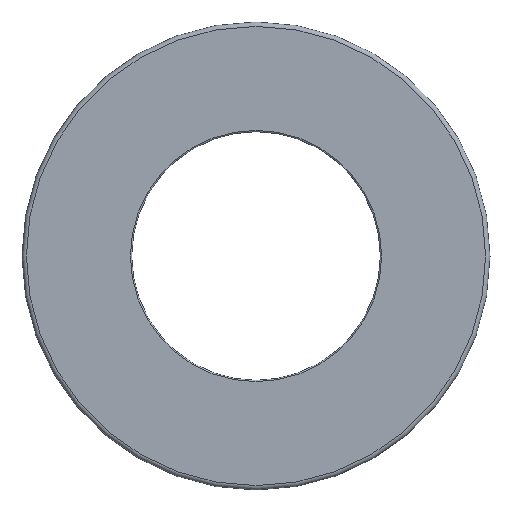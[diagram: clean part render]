
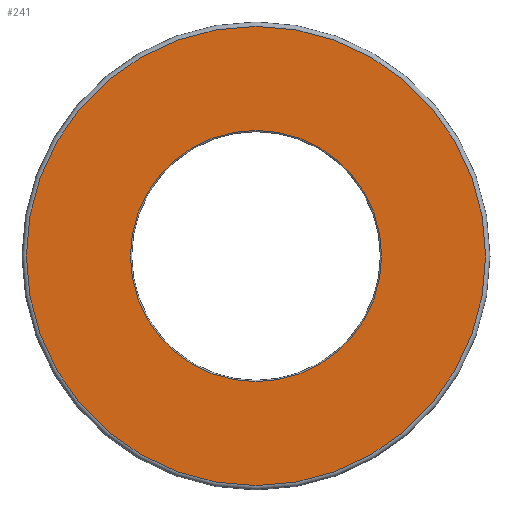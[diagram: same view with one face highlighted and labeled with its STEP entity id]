
A CAD part, left-side view. The second image highlights one B-rep face of the part: STEP entity #241.
In plain terms, the highlighted planar face has unit normal (-1, 0, 0).
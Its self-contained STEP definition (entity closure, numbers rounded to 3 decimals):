
#20=FACE_BOUND('',#67,.T.);
#24=PLANE('',#292);
#49=FACE_OUTER_BOUND('',#66,.T.);
#66=EDGE_LOOP('',(#186));
#67=EDGE_LOOP('',(#187));
#89=CIRCLE('',#288,15.7);
#92=CIRCLE('',#293,8.588);
#114=VERTEX_POINT('',#434);
#117=VERTEX_POINT('',#444);
#139=EDGE_CURVE('',#114,#114,#89,.T.);
#143=EDGE_CURVE('',#117,#117,#92,.T.);
#186=ORIENTED_EDGE('',*,*,#139,.F.);
#187=ORIENTED_EDGE('',*,*,#143,.T.);
#241=ADVANCED_FACE('',(#49,#20),#24,.T.);
#288=AXIS2_PLACEMENT_3D('',#436,#347,#348);
#292=AXIS2_PLACEMENT_3D('',#443,#356,#357);
#293=AXIS2_PLACEMENT_3D('',#445,#358,#359);
#347=DIRECTION('center_axis',(1.,0.,0.));
#348=DIRECTION('ref_axis',(0.,-1.,0.));
#356=DIRECTION('center_axis',(-1.,0.,0.));
#357=DIRECTION('ref_axis',(0.,0.,1.));
#358=DIRECTION('center_axis',(1.,0.,0.));
#359=DIRECTION('ref_axis',(0.,1.,0.));
#434=CARTESIAN_POINT('',(0.,0.,15.7));
#436=CARTESIAN_POINT('Origin',(0.,0.,
0.));
#443=CARTESIAN_POINT('Origin',(0.,12.294,0.));
#444=CARTESIAN_POINT('',(0.,0.,8.588));
#445=CARTESIAN_POINT('Origin',(0.,0.,
0.));
